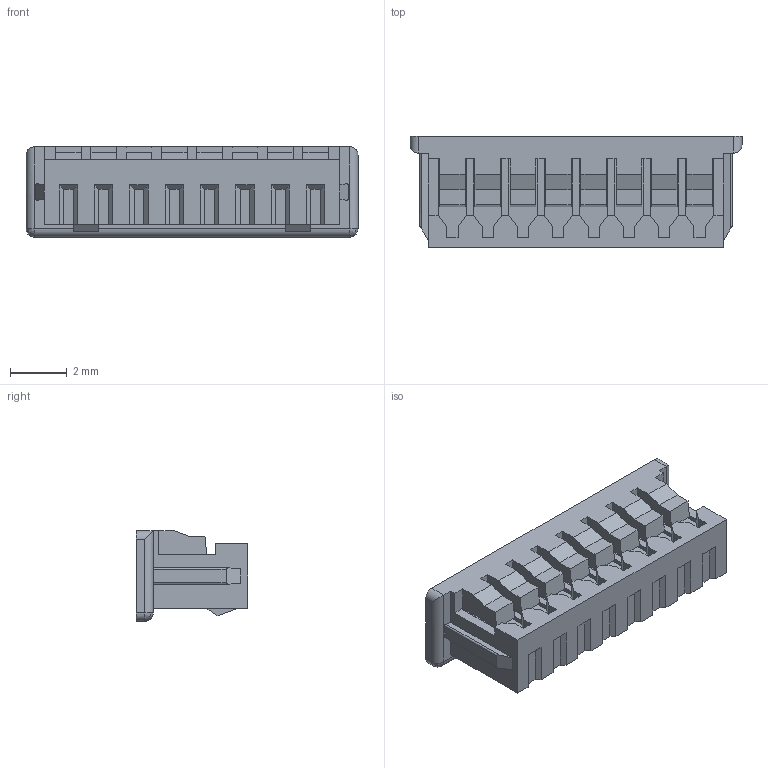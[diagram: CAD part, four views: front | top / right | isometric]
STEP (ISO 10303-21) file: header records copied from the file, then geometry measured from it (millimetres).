
FILE_DESCRIPTION (( 'STEP AP214' ), '1' );
FILE_NAME ('molex 51021-0800(8P).STEP', '2022-02-21T09:56:47', ( 'User' ), ( 'China' ), 'SwSTEP 2.0', 'SolidWorks 2016', '' );
FILE_SCHEMA (( 'AUTOMOTIVE_DESIGN' ));
Length unit declared in the file: millimetre
Products named in the file (1): molex 51021-0800(8P)
Bounding box: 11.75 x 3.95 x 3.2 mm (x, y, z)
Volume: 97.3 mm3; surface area: 250.1 mm2
Topology: 1 solids, 1 shells, 409 faces, 1073 edges, 672 vertices
Faces by surface type: plane 392, cylinder 13, bspline 4
Entity records: 12225 total; most frequent: CARTESIAN_POINT 2235, ORIENTED_EDGE 2138, DIRECTION 1893, EDGE_CURVE 1069, LINE 1041, VECTOR 1041, VERTEX_POINT 672, AXIS2_PLACEMENT_3D 426
